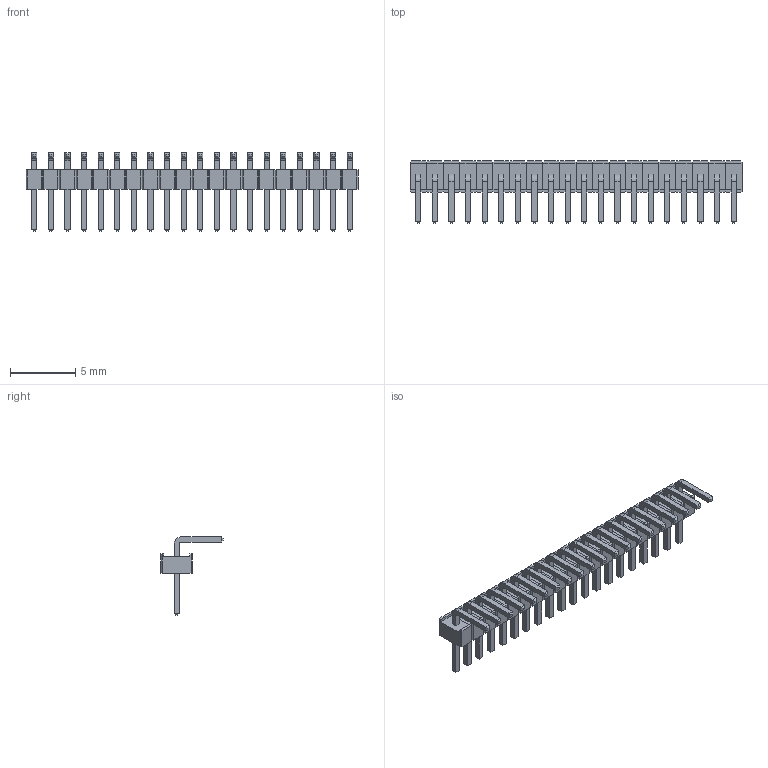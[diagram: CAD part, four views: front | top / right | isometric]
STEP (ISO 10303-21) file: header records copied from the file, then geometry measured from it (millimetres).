
FILE_DESCRIPTION(/* description */ (''),/* implementation_level */ '2;1');
FILE_NAME(/* name */ '1.27mm Right Angle Pinhead 20.step',/* time_stamp */ '2025-11-21T10:02:59+06:00',/* author */ (''),/* organization */ (''),/* preprocessor_version */ 'ST-DEVELOPER v20.1',/* originating_system */ 'Autodesk Translation Framework v14.21.0.0',/* authorisation */ '');
FILE_SCHEMA (('AUTOMOTIVE_DESIGN { 1 0 10303 214 3 1 1 }'));
Length unit declared in the file: millimetre
Products named in the file (1): 1.27mm Right Angle
Bounding box: 25.4 x 4.75 x 6 mm (x, y, z)
Volume: 105.5 mm3; surface area: 658 mm2
Topology: 40 solids, 40 shells, 720 faces, 1760 edges, 1120 vertices
Faces by surface type: plane 680, cylinder 40
Entity records: 20652 total; most frequent: CARTESIAN_POINT 3601, ORIENTED_EDGE 3520, DIRECTION 3282, EDGE_CURVE 1760, LINE 1680, VECTOR 1680, VERTEX_POINT 1120, AXIS2_PLACEMENT_3D 801
